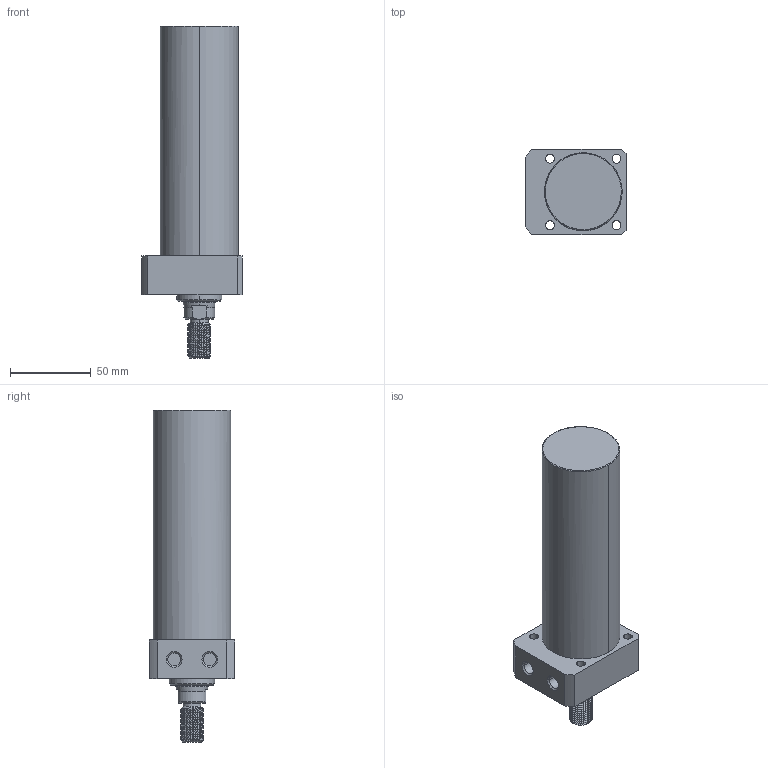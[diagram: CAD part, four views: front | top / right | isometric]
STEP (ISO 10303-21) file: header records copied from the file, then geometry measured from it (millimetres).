
FILE_DESCRIPTION((' '),'2;1');
FILE_NAME( 'TLLR-048CT-115.STEP.stp', '2025-10-24T16:34:37', (' '), ('--- Datakit www.datakit.com---'), ' Datakit CrossCadWare V2024.1 Dec 21 2023', 'Mastercam 2025', ' ');
FILE_SCHEMA(('AUTOMOTIVE_DESIGN { 1 0 10303 214 1 1 1 1 }'));
Length unit declared in the file: millimetre
Products named in the file (1): TLLR-048CT-115
Bounding box: 62 x 53 x 205 mm (x, y, z)
Volume: 340012.7 mm3; surface area: 37965.2 mm2
Topology: 1 solids, 1 shells, 96 faces, 329 edges, 243 vertices
Faces by surface type: cylinder 56, plane 20, cone 16, bspline 2, torus 2
Entity records: 9842 total; most frequent: CARTESIAN_POINT 6946, ORIENTED_EDGE 658, DIRECTION 499, EDGE_CURVE 329, VERTEX_POINT 243, AXIS2_PLACEMENT_3D 204, B_SPLINE_CURVE_WITH_KNOTS 129, EDGE_LOOP 112
